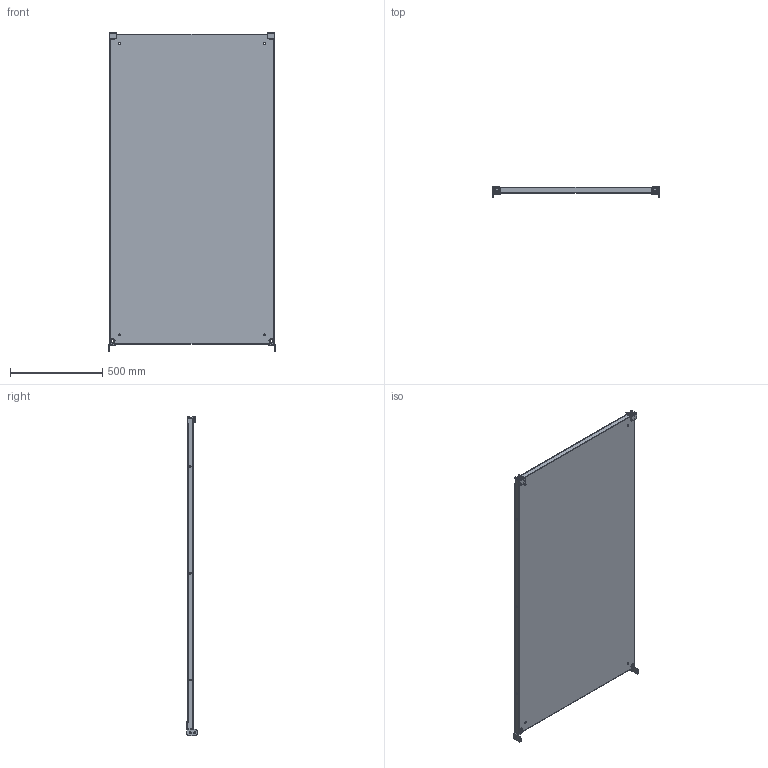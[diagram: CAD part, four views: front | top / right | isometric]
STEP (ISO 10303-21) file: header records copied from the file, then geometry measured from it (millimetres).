
FILE_DESCRIPTION (( 'STEP AP214' ), '1' );
FILE_NAME ('3D-Ìîäåëü Ïàíåëü ìîíòàæíàÿ OptiBox M-1800x1000(259045).STEP', '2018-07-09T11:27:20', ( '' ), ( '' ), 'SwSTEP 2.0', 'SolidWorks 2018', '' );
FILE_SCHEMA (( 'AUTOMOTIVE_DESIGN' ));
Length unit declared in the file: millimetre
Products named in the file (5): 筱铍铌 脲恹開牏氅; 筱铍铌 镳噔; ÏàíåëüÌîíòàæíàÿ1800x1000(259045); ﾊ煇鳫; 3D-Ìîäåëü Ïàíåëü ìîíòàæíàÿ OptiBox M-1800x1000(259045)
Assembly tree (5 placements, depth 2):
  3D-Ìîäåëü Ïàíåëü ìîíòàæíàÿ OptiBox M-1800x1000(259045)
    ÏàíåëüÌîíòàæíàÿ1800x1000(259045)
    ﾊ煇鳫  x2
    筱铍铌 脲恹開牏氅
    筱铍铌 镳噔
Bounding box: 903 x 56 x 1729 mm (x, y, z)
Volume: 3533615.6 mm3; surface area: 3517814.2 mm2
Topology: 5 solids, 5 shells, 586 faces, 1596 edges, 1020 vertices
Faces by surface type: plane 332, cylinder 242, bspline 8, cone 4
Entity records: 13565 total; most frequent: CARTESIAN_POINT 2808, DIRECTION 2213, ORIENTED_EDGE 2210, EDGE_CURVE 1105, AXIS2_PLACEMENT_3D 741, LINE 731, VECTOR 731, VERTEX_POINT 694
